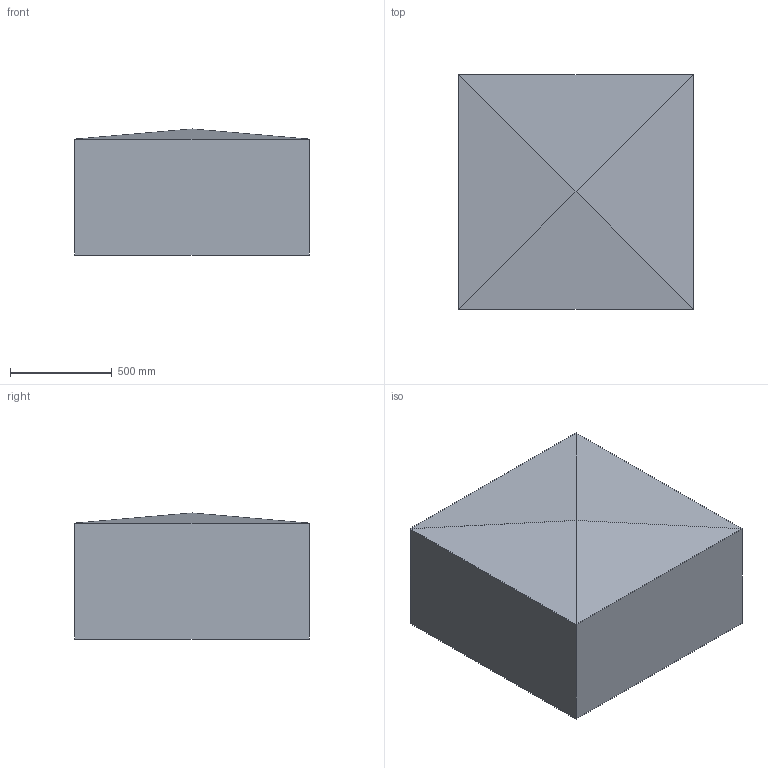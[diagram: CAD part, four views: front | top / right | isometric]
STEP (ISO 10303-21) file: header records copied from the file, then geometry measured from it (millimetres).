
FILE_DESCRIPTION(/* description */ (''),/* implementation_level */ '2;1');
FILE_NAME(/* name */ 'Z:\Output\HSDV_630-07489-001.stp',/* time_stamp */ '2017-07-11T11:08:58+02:00',/* author */ ('engineering1'),/* organization */ (''),/* preprocessor_version */ 'ST-DEVELOPER v16.5',/* originating_system */ 'Autodesk Inventor 2017',/* authorisation */ '');
FILE_SCHEMA (('AUTOMOTIVE_DESIGN { 1 0 10303 214 3 1 1 }'));
Length unit declared in the file: millimetre
Products named in the file (1): HSDV-1
Bounding box: 1155 x 1155 x 620 mm (x, y, z)
Volume: 782628000 mm3; surface area: 5306440.7 mm2
Topology: 1 solids, 1 shells, 9 faces, 16 edges, 9 vertices
Faces by surface type: plane 9
Entity records: 240 total; most frequent: DIRECTION 36, CARTESIAN_POINT 35, ORIENTED_EDGE 32, LINE 16, VECTOR 16, EDGE_CURVE 16, AXIS2_PLACEMENT_3D 10, FACE_OUTER_BOUND 9
